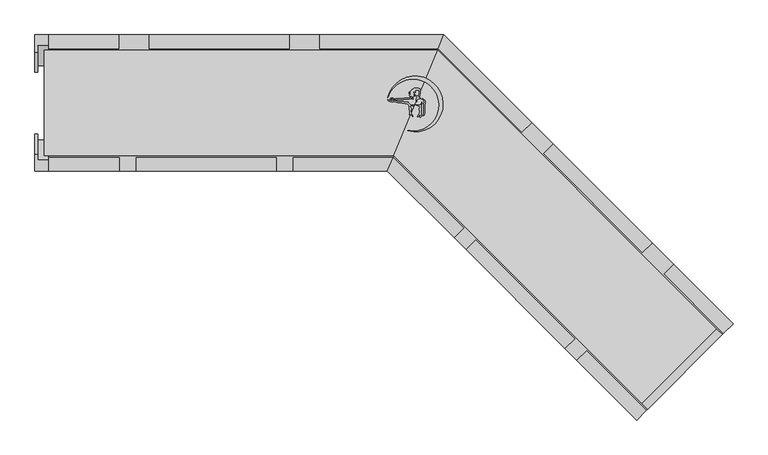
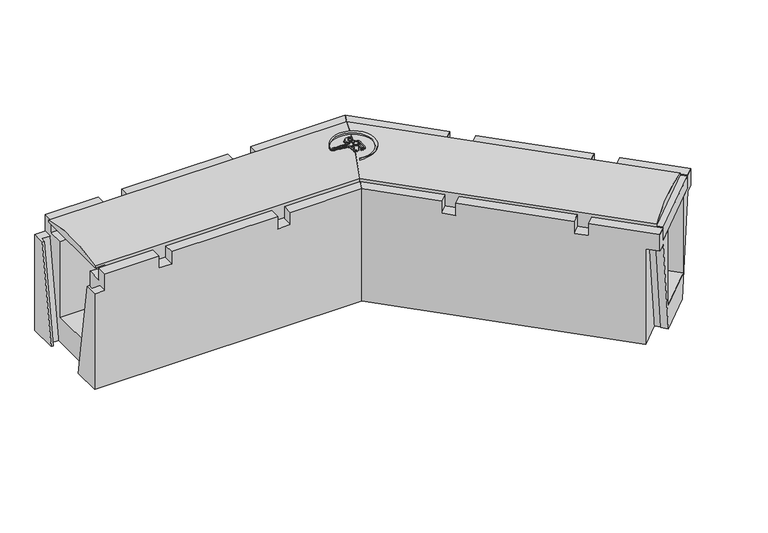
"""IFC4 building model written with IfcOpenShell, lengths in millimetres: cable carrier fitting geometry, Evotray type 1 horizontal bend : Evotray type 1 horizontal bend."""

from ifc_helpers import new_model, si_unit, point, frame, frame_2d, origin, place, context, project, spatial, polyline, circle_curve, ellipse_curve, trimmed, segment, composite_curve, outline, extrude, faceted_brep, source, transform, mapped, element, save
from ifc_brep_helpers import plane_surface, cylinder_surface, advanced_brep


def cable_carrier_fitting_05708309(model_context):
    return source(origin(), model_context, "Body", "SolidModel", [
        extrude(outline(composite_curve([segment(polyline([(64.8066117, 7.5339815), (66.2323027, 6.7108584), (65.5233714, 6.3015567), (62.9584416, 6.3015567), (60.4989483, 3.8420634), (60.4989483, 2.2583954), (59.4414343, 1.9750354), (59.1100672, 3.2117144), (59.4322886, 4.414261), (59.4322886, 6.6410761), (60.8988292, 8.1076167), (60.4989483, 8.8002309), (59.4322886, 9.4160672), (58.5740167, 9.9115907), (57.5808931, 10.9047143), (57.5808931, 12.1547711), (58.3686873, 11.6999379), (59.4322886, 10.6363367), (60.4989483, 10.0205004), (62.8117129, 10.0205004), (63.4436116, 10.6523991), (63.4436116, 12.2608037), (63.8494686, 12.9637687), (64.0890386, 13.8578561), (64.0890386, 17.953291), (63.4436116, 18.598718), (59.4322886, 18.9496633), (58.6841245, 18.5177106), (58.2522759, 17.769727), (58.0298825, 16.9397435), (57.7571661, 15.393092), (57.2011444, 15.9491137), (56.6354886, 16.5147695), (55.6749537, 16.5147695), (55.2005143, 15.6930164), (55.2005143, 14.868111), (55.6025614, 14.1717449), (56.3302561, 13.4440503), (55.9336167, 11.9637721), (55.5961168, 10.7042051), (55.8989242, 8.9868987), (55.0981311, 8.8456973), (53.3676858, 9.3093687), (52.1209766, 9.8907188), (51.3677194, 10.2419684), (49.7682708, 9.9599424), (50.2358292, 10.7697774), (51.8926502, 11.3728109)]), True, "CONTINUOUS"), segment(trimmed(circle_curve(frame_2d((51.3265227, 11.1008716)), 0.6280537), [point((51.8926502, 11.3728109))], [point((51.1709405, 11.7093497))], True, "CARTESIAN"), True, "CONTINUOUS"), segment(polyline([(51.1709405, 11.7093497), (49.2239254, 11.7093497), (49.7821035, 12.2675278), (50.6328833, 12.5771863), (51.4513228, 12.875074)]), True, "CONTINUOUS"), segment(trimmed(circle_curve(frame_2d((50.7129979, 12.875074)), 0.7383249), [point((51.4513228, 12.875074))], [point((50.7129979, 13.6133989))], True, "CARTESIAN"), True, "CONTINUOUS"), segment(polyline([(50.7129979, 13.6133989), (49.0052503, 13.6133989), (48.6137287, 14.2915342), (50.4323208, 14.612201), (51.7286588, 15.0840295), (51.1079061, 15.7047821), (49.1446866, 15.7047821), (49.697269, 16.2573646), (50.7271017, 16.8519388), (51.4018261, 17.5266631), (52.1246434, 17.9439819), (53.0996554, 18.5069053)]), True, "CONTINUOUS"), segment(trimmed(circle_curve(frame_2d((52.88867, 18.8723428)), 0.4219708), [point((53.0996554, 18.5069053))], [point((52.6776846, 19.2377802))], True, "CARTESIAN"), True, "CONTINUOUS"), segment(polyline([(52.6776846, 19.2377802), (53.2950813, 19.8551768), (54.5977512, 20.3293099), (55.5928078, 20.9038061), (56.7243444, 21.1033266), (56.3705186, 22.0754549), (61.3705186, 22.0754549), (62.3846924, 21.6025379), (63.5065474, 21.3019378), (64.5209935, 20.716247), (65.62967, 19.6075706), (65.62967, 17.0415553), (65.1407528, 16.1947259), (65.1407528, 13.46269), (64.6517179, 12.4139512), (64.244916, 11.7093497), (64.244916, 9.8605854), (63.4436116, 9.3979521), (62.6103331, 9.2510226)]), True, "CONTINUOUS"), segment(trimmed(circle_curve(frame_2d((63.6632846, 8.9688851)), 1.0900956), [point((62.6103331, 9.2510226))], [point((63.3811471, 7.9159336))], True, "CARTESIAN"), True, "CONTINUOUS"), segment(polyline([(63.3811471, 7.9159336), (64.8066117, 7.5339815)]), True, "CONTINUOUS")], self_intersect=False)), frame((0.0, 0.0, 223.75), z_axis=(0.0, 0.0, 1.0), x_axis=(1.0, 0.0, 0.0)), (0.0, 0.0, 1.0), 22.5),
        extrude(outline(polyline([(69.3633209, 4.6789788), (67.4406769, 5.7890178), (68.6299171, 6.1076737), (70.0047724, 5.6072673), (72.1309216, 4.3797345), (72.542571, 2.8434379), (72.542571, 0.0702487), (72.1241901, -2.3025073), (71.798053, -11.6418533), (71.798053, -14.4967502), (71.238405, -17.6706715), (70.0793809, -18.8296956), (69.1818923, -18.8296956), (69.8567665, -16.975494), (70.1657221, -15.2233198), (70.6801794, -12.3056877), (70.6801794, -1.066223), (71.121814, 1.4384114), (70.5793372, 3.4629626), (69.3633209, 4.6789788)])), frame((0.0, 0.0, 223.75), z_axis=(0.0, 0.0, 1.0), x_axis=(1.0, 0.0, 0.0)), (0.0, 0.0, 1.0), 22.5),
        extrude(outline(composite_curve([segment(polyline([(61.935072, -2.929042), (63.9172734, -2.929042), (65.3855378, -2.6701473), (66.6908198, -1.3648653), (67.8709286, 1.1658863), (68.3518806, -0.1555184), (67.7291729, -1.4909195), (67.0585654, -2.929042), (67.0585654, -8.8872378), (66.6301863, -11.3166965), (66.6301863, -19.7978385), (65.1815276, -21.2464971), (64.6087904, -20.6737599), (65.2875104, -18.9313898), (65.5456558, -17.4673747)]), True, "CONTINUOUS"), segment(trimmed(circle_curve(frame_2d((65.1310077, -17.4673747)), 0.414648), [point((65.5456558, -17.4673747))], [point((64.7163597, -17.4673747))], True, "CARTESIAN"), True, "CONTINUOUS"), segment(polyline([(64.7163597, -17.4673747), (63.9506709, -18.2330635), (62.6838244, -19.7428323), (62.0283154, -20.3983414), (61.2359942, -20.0288759), (63.4002141, -16.820288), (63.7061237, -15.0853881), (64.5481816, -13.2795892), (64.8053891, -11.8208929), (64.0168804, -10.4551557), (64.0168804, -7.6886085), (65.3400288, -5.8190518)]), True, "CONTINUOUS"), segment(trimmed(circle_curve(frame_2d((65.0029238, -5.5804712)), 0.4129897), [point((65.3400288, -5.8190518))], [point((64.7643432, -5.2433662))], True, "CARTESIAN"), True, "CONTINUOUS"), segment(polyline([(64.7643432, -5.2433662), (62.7605282, -4.8900395), (61.3166317, -4.2167395), (59.4966311, -3.3680593), (59.4966311, -2.499079), (61.935072, -2.929042)]), True, "CONTINUOUS")], self_intersect=False)), frame((0.0, 0.0, 223.75), z_axis=(0.0, 0.0, 1.0), x_axis=(1.0, 0.0, 0.0)), (0.0, 0.0, 1.0), 22.5),
        extrude(outline(composite_curve([segment(polyline([(19.5234761, 3.8801527), (21.25915, 3.0707947), (25.4456238, 3.0707947), (26.5163449, 3.3576935), (27.8428826, 3.3576935), (29.5639914, 3.0707947), (31.5703135, 2.5332023), (32.7235015, 2.2242065), (38.4154082, 2.2242065), (41.0319041, 1.7880518), (42.3594668, 1.4323324), (47.9737091, 1.4323324)]), True, "CONTINUOUS"), segment(trimmed(circle_curve(frame_2d((56.8272752, 4.337939)), 9.3181642), [point((47.9737091, 1.4323324))], [point((51.3279768, -3.184421))], True, "CARTESIAN"), True, "CONTINUOUS"), segment(polyline([(51.3279768, -3.184421), (54.3797617, -3.184421), (56.4143402, -3.0064185), (57.5533441, -2.4752922), (57.2958242, -3.4363696), (56.35173, -3.9814427), (55.393043, -4.3303762), (52.158338, -4.2174178), (50.9696434, -4.6500673), (50.5606491, -5.5271586), (50.6357297, -6.3853337), (51.1146138, -7.2147854), (51.8352193, -7.9353909), (51.8352193, -9.6916034), (51.4699191, -10.6952577), (51.6141857, -12.3442325), (52.119278, -14.2292627), (52.2673971, -15.9222719), (54.6387321, -18.6501808), (54.4300552, -19.8336466), (51.8352193, -17.2388107), (50.8723877, -17.4968007), (49.4692115, -17.2493828), (49.7447719, -16.4922869), (49.7447719, -14.2182314), (49.9203757, -13.2223327), (49.7447719, -11.2151718), (49.3691095, -10.1830477), (49.3691095, -8.3578648), (48.9227738, -7.4006948), (48.9227738, -5.0229453), (48.6743335, -4.0957537), (48.2223632, -3.3129181), (47.7736514, -2.5357266), (47.159209, -1.9212842), (46.7253578, -0.9908871), (43.1244196, -0.8651396), (40.7802676, -0.4743831), (38.7476743, 0.0702487), (35.4060546, 0.4214671), (33.3264416, 0.4214671), (31.984207, 0.7811177), (30.460612, 1.1893638), (29.1173587, 1.8157331), (28.1229699, 1.8157331), (25.4715296, 1.8157331), (24.3592855, 1.5177082), (22.4960035, 1.713547), (21.0069287, 1.9617671), (19.3336211, 2.7420433), (18.3576948, 3.7179696), (17.7186117, 4.3570527), (17.7186117, 5.1439324), (19.5234761, 3.8801527)]), True, "CONTINUOUS")], self_intersect=False)), frame((0.0, 0.0, 223.75), z_axis=(0.0, 0.0, 1.0), x_axis=(1.0, 0.0, 0.0)), (0.0, 0.0, 1.0), 22.5),
        extrude(outline(composite_curve([segment(polyline([(22.0257087, 5.4241248), (23.049023, 4.833314), (21.3213626, 5.3529849), (20.9912161, 6.2705486), (21.8295405, 7.108873), (24.702359, 7.108873), (25.686796, 6.7111347), (26.7772848, 6.2705486), (27.5754784, 5.8097113), (28.8357085, 5.8097113), (29.6567336, 6.1051225), (30.5419858, 6.6162232), (36.9556908, 6.6162232), (37.8112654, 6.2705486), (38.8816674, 6.2705486), (39.8423876, 6.6162232), (41.0215443, 6.6162232), (41.7398833, 7.0309564), (47.1525386, 7.0309564), (47.9128192, 7.3045113), (49.1549772, 7.3045113), (49.7307458, 7.8802798), (51.6883092, 7.8802798), (52.9763103, 7.3598936), (53.9882267, 6.7756634), (54.7926678, 6.4506481)]), True, "CONTINUOUS"), segment(trimmed(circle_curve(frame_2d((54.3853354, 6.2860752)), 0.4393221), [point((54.7926678, 6.4506481))], [point((54.2207625, 5.8787428))], False, "CARTESIAN"), True, "CONTINUOUS"), segment(polyline([(54.2207625, 5.8787428), (53.2050338, 6.2891238), (51.893376, 6.2891238), (50.622946, 6.5131349), (49.8109216, 6.2209622), (48.6679477, 5.8097113), (45.3237497, 5.8097113), (44.5326764, 5.3529849), (40.9653561, 5.3529849), (40.0824938, 4.8432641), (30.0824938, 4.8432641), (27.4718297, 4.6148606), (23.783302, 6.1051225), (21.6325345, 6.1051225), (22.0257087, 5.4241248)]), True, "CONTINUOUS")], self_intersect=False)), frame((0.0, 0.0, 223.75), z_axis=(0.0, 0.0, 1.0), x_axis=(1.0, 0.0, 0.0)), (0.0, 0.0, 1.0), 22.5),
        extrude(outline(composite_curve([segment(trimmed(circle_curve(frame_2d((54.6059688, -3.2457098)), 38.3616107), [point((47.198132, -40.8852785))], [point((17.8944335, 7.8842657))], True, "CARTESIAN"), True, "CONTINUOUS"), segment(trimmed(circle_curve(frame_2d((57.7353695, -1.3653761)), 40.900563), [point((17.8944335, 7.8842657))], [point((47.198132, -40.8852785))], False, "CARTESIAN"), True, "CONTINUOUS")], self_intersect=False)), frame((0.0, 0.0, 223.75), z_axis=(0.0, 0.0, 1.0), x_axis=(1.0, 0.0, 0.0)), (0.0, 0.0, 1.0), 22.5),
        advanced_brep(
        [(398.7526151, -449.7755224, 205.0), (26.4770927, -77.5, 205.0), (90.6801948, 77.5, 205.0), (508.3541661, -340.1739713, 205.0), (508.3541661, -340.1739713, 230.0), (398.7526151, -449.7755224, 230.0), (90.6801948, 77.5, 234.0), (499.8688848, -331.6886899, 234.0), (499.8688848, -331.6886899, 230.0), (26.4770927, -77.5, 234.0), (390.2673337, -441.290241, 230.0), (390.2673337, -441.290241, 234.0)],
        [
            (0, 1),
            (1, 2),
            (2, 3),
            (3, 0),
            (3, 4),
            (4, 5),
            (5, 0),
            (2, 6),
            (6, 7),
            (7, 8),
            (8, 4),
            (1, 9),
            (9, 6, ellipse_curve(frame((58.5786438, 0.0, -14.0990154), z_axis=(-0.9238795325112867, 0.38268343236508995, 0.0), x_axis=(-0.3826834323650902, -0.9238795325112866, 0.0)), 281.3373901, 259.9218564)),
            (5, 10),
            (10, 11),
            (11, 9),
            (8, 10),
            (7, 11, circle_curve(frame((445.0681092, -386.4894655, -14.0990154), z_axis=(0.7071067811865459, -0.7071067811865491, 0.0), x_axis=(-0.7071067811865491, -0.7071067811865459, 0.0)), 259.9218564)),
        ],
        [
            plane_surface(frame((510.1219331, -338.4062043, 205.0), z_axis=(0.0, 0.0, -1.0), x_axis=(-0.7071067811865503, -0.7071067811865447, 0.0))),
            plane_surface(frame((398.7526151, -449.7755224, 246.0), z_axis=(0.7071067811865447, -0.7071067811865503, 0.0), x_axis=(0.0, 0.0, -1.0))),
            plane_surface(frame((508.3541661, -340.1739713, 246.0), z_axis=(0.707106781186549, 0.707106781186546, 0.0), x_axis=(0.0, 0.0, -1.0))),
            plane_surface(frame((90.6801948, 77.5, 246.0), z_axis=(-0.9238795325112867, 0.38268343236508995, 0.0), x_axis=(0.0, 0.0, -1.0))),
            plane_surface(frame((26.4770927, -77.5, 246.0), z_axis=(-0.7071067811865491, -0.707106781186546, 0.0), x_axis=(0.0, 0.0, -1.0))),
            plane_surface(frame((390.196623, -441.3609517, 230.0), z_axis=(0.0, 0.0, 1.0), x_axis=(0.7071067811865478, 0.7071067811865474, 0.0))),
            plane_surface(frame((499.8688848, -331.6886899, 246.0), z_axis=(0.7071067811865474, -0.7071067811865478, 0.0), x_axis=(0.0, 0.0, -1.0))),
            cylinder_surface(frame((58.5786438, 0.0, -14.0990154), z_axis=(0.7071067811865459, -0.7071067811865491, 0.0), x_axis=(-0.7071067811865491, -0.7071067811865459, 0.0)), 259.9218564),
        ],
        [
            (0, [[1, 2, 3, 4]]),
            (1, [[-4, 5, 6, 7]]),
            (2, [[-3, 8, 9, 10, 11, -5]]),
            (3, [[-2, 12, 13, -8]]),
            (4, [[-1, -7, 14, 15, 16, -12]]),
            (5, [[17, -14, -6, -11]]),
            (6, [[-17, -10, 18, -15]]),
            (7, [[-9, -13, -16, -18]]),
        ],
    ),
        advanced_brep(
        [(90.6801948, 77.5, 205.0), (26.4770927, -77.5, 205.0), (-466.0, -77.5, 205.0), (-466.0, 77.5, 205.0), (26.4770927, -77.5, 230.0), (26.4770927, -77.5, 234.0), (-486.0, -77.5, 234.0), (-486.0, -77.5, 230.0), (-466.0, -77.5, 230.0), (90.6801948, 77.5, 230.0), (90.6801948, 77.5, 234.0), (-466.0, 77.5, 230.0), (-486.0, 77.5, 230.0), (-486.0, 77.5, 234.0)],
        [
            (0, 1),
            (1, 2),
            (2, 3),
            (3, 0),
            (1, 4),
            (4, 5),
            (5, 6),
            (6, 7),
            (7, 8),
            (8, 2),
            (0, 9),
            (9, 10),
            (10, 5, ellipse_curve(frame((58.5786438, 0.0, -14.0990154), z_axis=(0.9238795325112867, -0.3826834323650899, 0.0), x_axis=(0.38268343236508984, 0.9238795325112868, 0.0)), 281.3373901, 259.9218564)),
            (3, 11),
            (11, 12),
            (12, 13),
            (13, 10),
            (12, 7),
            (6, 13, circle_curve(frame((-486.0, 0.0, -14.0990154), z_axis=(-1.0, 0.0, 0.0), x_axis=(0.0, -1.0, 0.0)), 259.9218564)),
            (11, 8),
        ],
        [
            plane_surface(frame((-77.5, -77.5, 205.0), z_axis=(0.0, 0.0, -1.0), x_axis=(-1.0, 0.0, 0.0))),
            plane_surface(frame((-486.0, -77.5, 246.0), z_axis=(0.0, -1.0, 0.0), x_axis=(0.0, 0.0, -1.0))),
            plane_surface(frame((26.4770927, -77.5, 246.0), z_axis=(0.9238795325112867, -0.3826834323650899, 0.0), x_axis=(0.0, 0.0, -1.0))),
            plane_surface(frame((90.6801948, 77.5, 246.0), z_axis=(0.0, 1.0, 0.0), x_axis=(0.0, 0.0, -1.0))),
            plane_surface(frame((-486.0, 77.5, 246.0), z_axis=(-1.0, 0.0, 0.0), x_axis=(0.0, 0.0, -1.0))),
            plane_surface(frame((-486.0, 77.5, 230.0), z_axis=(0.0, 0.0, -1.0), x_axis=(-1.0, 0.0, 0.0))),
            plane_surface(frame((-466.0, -77.5, 230.0), z_axis=(-1.0, 0.0, 0.0), x_axis=(0.0, 0.0, -1.0))),
            cylinder_surface(frame((-486.0, 0.0, -14.0990154), z_axis=(1.0, 0.0, 0.0), x_axis=(0.0, -1.0, 0.0)), 259.9218564),
        ],
        [
            (0, [[1, 2, 3, 4]]),
            (1, [[5, 6, 7, 8, 9, 10, -2]]),
            (2, [[-1, 11, 12, 13, -6, -5]]),
            (3, [[-11, -4, 14, 15, 16, 17, -12]]),
            (4, [[18, -8, 19, -16]]),
            (5, [[20, -9, -18, -15]]),
            (6, [[-20, -14, -3, -10]]),
            (7, [[-7, -13, -17, -19]]),
        ],
    ),
        faceted_brep([(25.4415588, -80.0, 230.0), (17.1572875, -100.0, 230.0), (114.8492424, -197.6919549, 230.0), (128.991378, -183.5498193, 230.0), (100.0, 100.0, 230.0), (91.7157288, 80.0, 230.0), (214.5512986, -42.8355698, 230.0), (228.6934342, -28.6934342, 230.0), (510.1219331, -338.4062043, 230.0), (524.2640687, -324.2640687, 230.0), (437.2899346, -237.2899346, 230.0), (423.147799, -251.4320702, 230.0), (382.8427125, -465.6854249, 230.0), (396.9848481, -451.5432893, 230.0), (309.3036072, -363.8620485, 230.0), (295.1614716, -378.0041841, 230.0), (405.4701295, -205.4701295, 230.0), (260.5132393, -60.5132393, 230.0), (246.3711037, -74.655375, 230.0), (391.3279938, -219.6122651, 230.0), (132.5269119, -215.3696244, 230.0), (277.4838021, -360.3265146, 230.0), (291.6259377, -346.1843789, 230.0), (146.6690476, -201.2274888, 230.0), (17.1572875, -100.0, 0.0), (100.0, 100.0, 0.0), (506.5863992, -306.5863992, 0.0), (466.2813127, -346.8914857, 0.0), (474.766594, -355.3767671, 0.0), (476.4636503, -353.6797108, 0.0), (485.6560385, -362.872099, 0.0), (421.4507427, -427.0773947, 0.0), (412.2583546, -417.8850065, 0.0), (413.9554108, -416.1879503, 0.0), (405.4701295, -407.7026689, 0.0), (365.1650429, -448.0077554, 0.0), (228.6934342, -28.6934342, 205.0), (260.5132393, -60.5132393, 205.0), (405.4701295, -205.4701295, 205.0), (437.2899346, -237.2899346, 205.0), (524.2640687, -324.2640687, 196.0), (506.5863992, -306.5863992, 196.0), (25.4415588, -80.0, 205.0), (37.8679656, -50.0, 205.0), (37.8679656, -50.0, 50.0), (79.2893219, 50.0, 50.0), (79.2893219, 50.0, 205.0), (91.7157288, 80.0, 205.0), (365.1650429, -448.0077554, 196.0), (382.8427125, -465.6854249, 196.0), (295.1614716, -378.0041841, 205.0), (277.4838021, -360.3265146, 205.0), (132.5269119, -215.3696244, 205.0), (114.8492424, -197.6919549, 205.0), (396.9848481, -451.5432893, 196.0), (510.1219331, -338.4062043, 196.0), (510.1219331, -338.4062043, 205.0), (488.9087297, -359.6194078, 205.0), (488.9087297, -359.6194078, 50.0), (418.1980515, -430.3300859, 50.0), (418.1980515, -430.3300859, 205.0), (396.9848481, -451.5432893, 205.0), (387.7924599, -442.3509012, 196.0), (381.0042348, -432.1685635, 196.0), (389.4895162, -440.6538449, 196.0), (500.9295449, -329.2138162, 196.0), (499.2324887, -330.9108725, 196.0), (490.7472073, -322.4255911, 196.0), (128.991378, -183.5498193, 205.0), (146.6690476, -201.2274888, 205.0), (291.6259377, -346.1843789, 205.0), (309.3036072, -363.8620485, 205.0), (423.147799, -251.4320702, 205.0), (391.3279938, -219.6122651, 205.0), (246.3711037, -74.655375, 205.0), (214.5512986, -42.8355698, 205.0)], [[[0, 1, 2, 3]], [[4, 5, 6, 7]], [[8, 9, 10, 11]], [[12, 13, 14, 15]], [[16, 17, 18, 19]], [[20, 21, 22, 23]], [[24, 25, 26, 27, 28, 29, 30, 31, 32, 33, 34, 35]], [[25, 4, 7, 36, 37, 17, 16, 38, 39, 10, 9, 40, 41, 26]], [[25, 24, 1, 0, 42, 43, 44, 45, 46, 47, 5, 4]], [[1, 24, 35, 48, 49, 12, 15, 50, 51, 21, 20, 52, 53, 2]], [[12, 49, 54, 31, 30, 55, 40, 9, 8, 56, 57, 58, 59, 60, 61, 13]], [[62, 54, 49, 48, 63, 64]], [[54, 62, 32, 31]], [[55, 65, 66, 67, 41, 40]], [[65, 55, 30, 29]], [[64, 33, 32, 62]], [[64, 63, 34, 33]], [[63, 48, 35, 34]], [[28, 66, 65, 29]], [[67, 66, 28, 27]], [[41, 67, 27, 26]], [[43, 42, 68, 53, 52, 69, 70, 51, 50, 71, 61, 60]], [[47, 46, 57, 56, 72, 39, 38, 73, 74, 37, 36, 75]], [[19, 18, 74, 73]], [[5, 47, 75, 6]], [[56, 8, 11, 72]], [[23, 22, 70, 69]], [[42, 0, 3, 68]], [[13, 61, 71, 14]], [[58, 45, 44, 59]], [[45, 58, 57, 46]], [[59, 44, 43, 60]], [[51, 70, 22, 21]], [[71, 50, 15, 14]], [[75, 36, 7, 6]], [[37, 74, 18, 17]], [[73, 38, 16, 19]], [[39, 72, 11, 10]], [[53, 68, 3, 2]], [[69, 52, 20, 23]]]),
        faceted_brep([(17.1572875, -100.0, 230.0), (25.4415588, -80.0, 230.0), (-121.0, -80.0, 230.0), (-121.0, -100.0, 230.0), (91.7157288, 80.0, 230.0), (100.0, 100.0, 230.0), (-82.0, 100.0, 230.0), (-82.0, 80.0, 230.0), (-127.0, 100.0, 230.0), (-332.0, 100.0, 230.0), (-332.0, 80.0, 230.0), (-127.0, 80.0, 230.0), (-376.0, -100.0, 230.0), (-376.0, -80.0, 230.0), (-480.0, -80.0, 230.0), (-480.0, -100.0, 230.0), (-377.0, 80.0, 230.0), (-377.0, 100.0, 230.0), (-480.0, 100.0, 230.0), (-480.0, 80.0, 230.0), (-351.0, -100.0, 230.0), (-146.0, -100.0, 230.0), (-146.0, -80.0, 230.0), (-351.0, -80.0, 230.0), (-500.0, 100.0, 0.0), (100.0, 100.0, 0.0), (17.1572875, -100.0, 0.0), (-500.0, -100.0, 0.0), (-500.0, -45.5, 0.0), (-496.0, -45.5, 0.0), (-496.0, -54.6, 0.0), (-480.0, -54.6, 0.0), (-480.0, 54.6, 0.0), (-496.0, 54.6, 0.0), (-496.0, 45.4, 0.0), (-500.0, 45.4, 0.0), (-500.0, 100.0, 196.0), (-500.0, 74.8852174, 196.0), (-500.0, -100.0, 196.0), (-500.0, -74.9, 196.0), (-121.0, -100.0, 205.0), (-146.0, -100.0, 205.0), (-351.0, -100.0, 205.0), (-376.0, -100.0, 205.0), (-480.0, -100.0, 196.0), (91.7157288, 80.0, 205.0), (79.2893219, 50.0, 205.0), (79.2893219, 50.0, 50.0), (37.8679656, -50.0, 50.0), (37.8679656, -50.0, 205.0), (25.4415588, -80.0, 205.0), (-480.0, 100.0, 196.0), (-377.0, 100.0, 205.0), (-332.0, 100.0, 205.0), (-127.0, 100.0, 205.0), (-82.0, 100.0, 205.0), (-82.0, 80.0, 205.0), (-127.0, 80.0, 205.0), (-332.0, 80.0, 205.0), (-377.0, 80.0, 205.0), (-480.0, 80.0, 205.0), (-480.0, 77.5, 205.0), (-480.0, 50.0, 205.0), (-466.0, 50.0, 205.0), (-466.0, -50.0, 205.0), (-480.0, -50.0, 205.0), (-480.0, -77.5, 205.0), (-480.0, -80.0, 205.0), (-376.0, -80.0, 205.0), (-351.0, -80.0, 205.0), (-146.0, -80.0, 205.0), (-121.0, -80.0, 205.0), (-480.0, 50.0, 50.0), (-480.0, -50.0, 50.0), (-480.0, -84.0852174, 196.0), (-496.0, -84.0852174, 196.0), (-496.0, -74.9, 196.0), (-496.0, 74.8852174, 196.0), (-496.0, 84.0, 196.0), (-480.0, 84.0, 196.0)], [[[0, 1, 2, 3]], [[4, 5, 6, 7]], [[8, 9, 10, 11]], [[12, 13, 14, 15]], [[16, 17, 18, 19]], [[20, 21, 22, 23]], [[24, 25, 26, 27, 28, 29, 30, 31, 32, 33, 34, 35]], [[36, 24, 35, 37]], [[27, 38, 39, 28]], [[27, 26, 0, 3, 40, 41, 21, 20, 42, 43, 12, 15, 44, 38]], [[26, 25, 5, 4, 45, 46, 47, 48, 49, 50, 1, 0]], [[25, 24, 36, 51, 18, 17, 52, 53, 9, 8, 54, 55, 6, 5]], [[46, 45, 56, 55, 54, 57, 58, 53, 52, 59, 60, 61, 62, 63]], [[50, 49, 64, 65, 66, 67, 68, 43, 42, 69, 70, 41, 40, 71]], [[23, 22, 70, 69]], [[1, 50, 71, 2]], [[13, 68, 67, 14]], [[11, 10, 58, 57]], [[45, 4, 7, 56]], [[59, 16, 19, 60]], [[48, 47, 72, 73]], [[47, 46, 63, 62, 72]], [[49, 48, 73, 65, 64]], [[43, 68, 13, 12]], [[69, 42, 20, 23]], [[59, 52, 17, 16]], [[53, 58, 10, 9]], [[57, 54, 8, 11]], [[55, 56, 7, 6]], [[38, 44, 74, 75, 76, 39]], [[51, 36, 37, 77, 78, 79]], [[44, 15, 14, 67, 66, 65, 73, 72, 62, 61, 60, 19, 18, 51, 79, 32, 31, 74]], [[35, 34, 77, 37]], [[29, 28, 39, 76]], [[32, 79, 78, 33]], [[33, 78, 77, 34]], [[75, 30, 29, 76]], [[74, 31, 30, 75]], [[41, 70, 22, 21]], [[71, 40, 3, 2]]]),
    ])


if __name__ == "__main__":
    model = new_model("IFC4")
    model_context = context("Model", 3, world=origin())
    ifc_project = project(units=[si_unit("LENGTHUNIT", "METRE", prefix="MILLI")], contexts=[model_context])
    site = spatial("IfcSite", under=ifc_project)
    building = spatial("IfcBuilding", under=site)
    placement = place(None, origin())
    cable_carrier_fitting_shape = cable_carrier_fitting_05708309(model_context)
    element("IfcCableCarrierFitting", 1, ObjectType="Evotray type 1 horizontal bend : Evotray type 1 horizontal bend", at=placement, inside=building, context=model_context, shape_type="MappedRepresentation", body=[
        mapped(cable_carrier_fitting_shape, transform((0.0, 0.0, 0.0), x_axis=(1.0, 0.0, 0.0), y_axis=(0.0, 1.0, 0.0), z_axis=(0.0, 0.0, 1.0))),
    ])
    save(model, "model.ifc")
